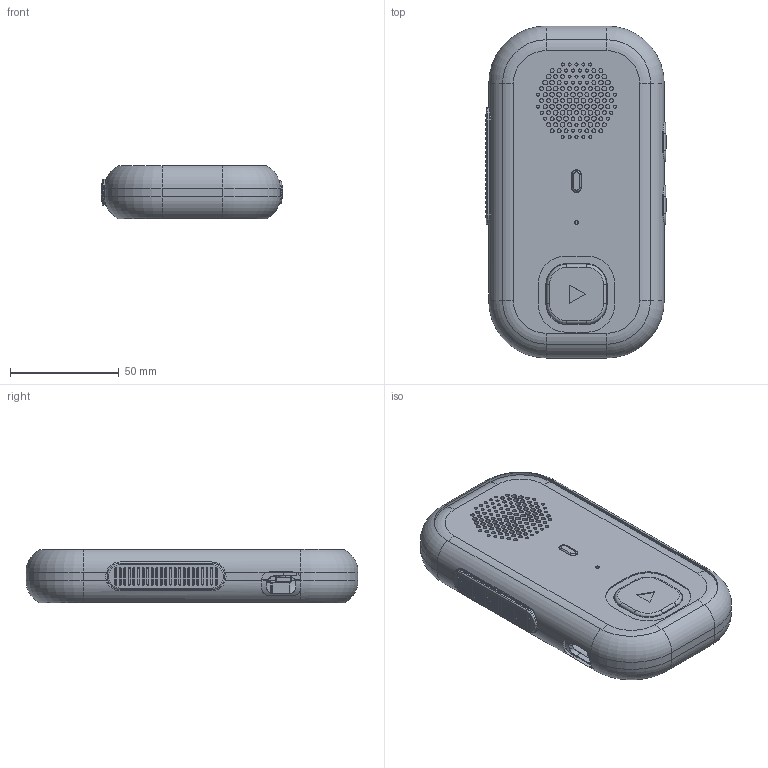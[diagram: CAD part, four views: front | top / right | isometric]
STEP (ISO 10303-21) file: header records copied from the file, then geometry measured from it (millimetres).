
FILE_DESCRIPTION(('Open CASCADE Model'),'2;1');
FILE_NAME('Walkie_One_Concept_27_R2_CASE','2026-09-10T02:58:51',( 'Author'),('Open CASCADE'),'Open CASCADE STEP processor 7.9', 'build123d','Unknown');
FILE_SCHEMA(('AUTOMOTIVE_DESIGN { 1 0 10303 214 1 1 1 1 }'));
Length unit declared in the file: millimetre
Products named in the file (1): Walkie_One_Concept_27_R2_CASE
Bounding box: 83.35 x 152.7 x 24.74 mm (x, y, z)
Volume: 88176.3 mm3; surface area: 126666.7 mm2
Topology: 85 solids, 85 shells, 4073 faces, 10924 edges, 7154 vertices
Faces by surface type: plane 1894, cylinder 1324, bspline 632, torus 190, cone 28, revolution 4, sphere 1
Full cylindrical faces by diameter (mm): 1.4 x32, 1.5 x5, 1.567 x14, 1.7 x26, 1.8 x49, 2.013 x4, 2.1 x4, 2.2 x43, 2.3 x12, 2.6 x6, 2.8 x4, 2.9 x4, 3 x3, 4.2 x6, 5 x1, 5.1 x4, 5.3 x1, 5.4 x5, 5.5 x1, 38 x2, 39.6 x3
Entity records: 297144 total; most frequent: CARTESIAN_POINT 87872, DIRECTION 36179, ORIENTED_EDGE 21846, PCURVE 21846, DEFINITIONAL_REPRESENTATION 21846, LINE 21031, VECTOR 21031, EDGE_CURVE 10923
